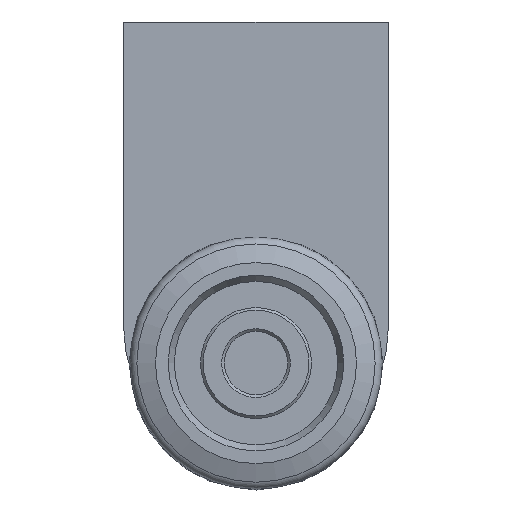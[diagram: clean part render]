
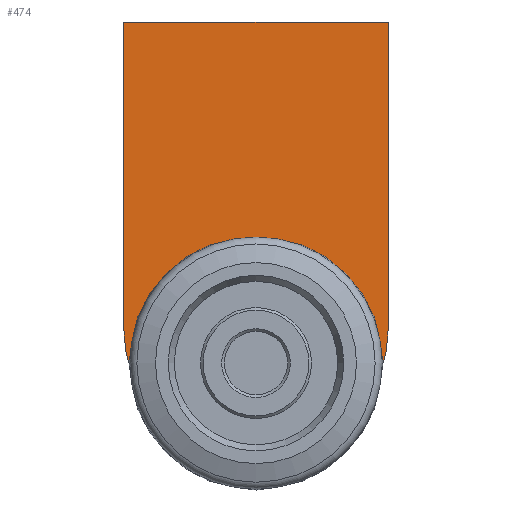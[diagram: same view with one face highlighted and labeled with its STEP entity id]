
A CAD part, left-side view. The second image highlights one B-rep face of the part: STEP entity #474.
In plain terms, the highlighted planar face has unit normal (-1, 0, 0) as drawn and (0, 0, 1) by its records, which use the part's own axes.
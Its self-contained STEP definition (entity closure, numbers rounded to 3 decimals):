
#43=LINE('',#848,#53);
#47=LINE('',#856,#57);
#51=LINE('',#867,#61);
#53=VECTOR('',#674,50.);
#57=VECTOR('',#680,58.);
#61=VECTOR('',#692,58.);
#115=FACE_BOUND('',#215,.T.);
#157=FACE_OUTER_BOUND('',#214,.T.);
#214=EDGE_LOOP('',(#412,#413,#414,#415));
#215=EDGE_LOOP('',(#416));
#251=CIRCLE('',#536,6.15);
#253=CIRCLE('',#541,25.);
#284=VERTEX_POINT('',#841);
#286=VERTEX_POINT('',#846);
#287=VERTEX_POINT('',#847);
#290=VERTEX_POINT('',#855);
#292=VERTEX_POINT('',#861);
#324=EDGE_CURVE('',#284,#284,#251,.T.);
#326=EDGE_CURVE('',#286,#287,#43,.T.);
#330=EDGE_CURVE('',#287,#290,#47,.T.);
#333=EDGE_CURVE('',#290,#292,#253,.T.);
#336=EDGE_CURVE('',#292,#286,#51,.T.);
#412=ORIENTED_EDGE('',*,*,#326,.F.);
#413=ORIENTED_EDGE('',*,*,#336,.F.);
#414=ORIENTED_EDGE('',*,*,#333,.F.);
#415=ORIENTED_EDGE('',*,*,#330,.F.);
#416=ORIENTED_EDGE('',*,*,#324,.T.);
#441=PLANE('',#544);
#474=ADVANCED_FACE('',(#157,#115),#441,.T.);
#536=AXIS2_PLACEMENT_3D('',#842,#668,#669);
#541=AXIS2_PLACEMENT_3D('',#862,#685,#686);
#544=AXIS2_PLACEMENT_3D('',#869,#694,#695);
#668=DIRECTION('center_axis',(0.,0.,-1.));
#669=DIRECTION('ref_axis',(-1.,0.,0.));
#674=DIRECTION('',(0.,-1.,0.));
#680=DIRECTION('',(-1.,0.,0.));
#685=DIRECTION('center_axis',(0.,0.,-1.));
#686=DIRECTION('ref_axis',(0.,-1.,0.));
#692=DIRECTION('',(1.,0.,0.));
#694=DIRECTION('center_axis',(0.,0.,1.));
#695=DIRECTION('ref_axis',(1.,0.,0.));
#841=CARTESIAN_POINT('',(6.15,0.,10.));
#842=CARTESIAN_POINT('Origin',(0.,0.,10.));
#846=CARTESIAN_POINT('',(64.5,25.,10.));
#847=CARTESIAN_POINT('',(64.5,-25.,10.));
#848=CARTESIAN_POINT('',(64.5,25.,10.));
#855=CARTESIAN_POINT('',(6.5,-25.,10.));
#856=CARTESIAN_POINT('',(64.5,-25.,10.));
#861=CARTESIAN_POINT('',(6.5,25.,10.));
#862=CARTESIAN_POINT('Origin',(6.5,0.,10.));
#867=CARTESIAN_POINT('',(6.5,25.,10.));
#869=CARTESIAN_POINT('Origin',(27.507,0.,10.));
